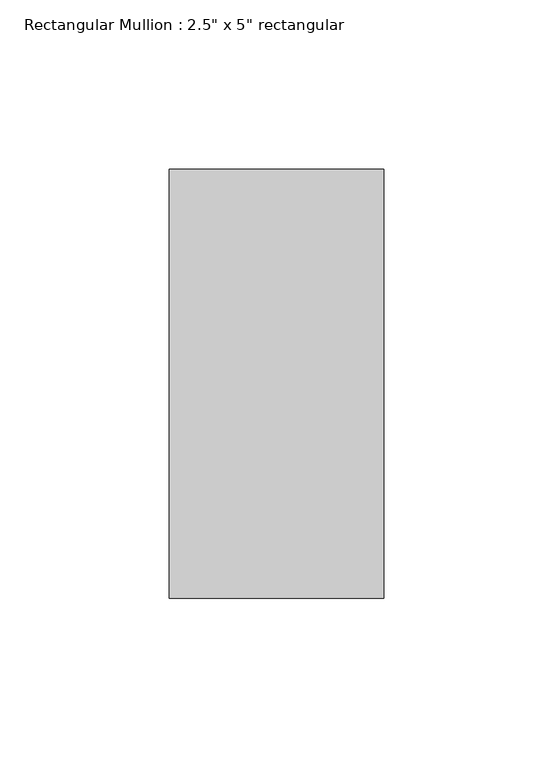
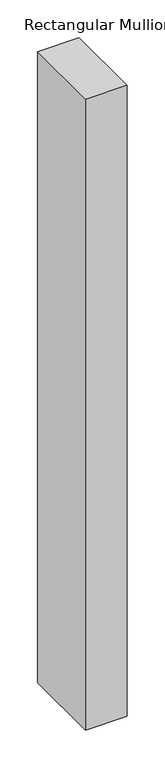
"""IFC4 building model written with IfcOpenShell, lengths in millimetres: member geometry."""

import ifcopenshell
import ifcopenshell.guid

model = None  # the IFC model being written
_history = None  # IfcOwnerHistory: only IFC2X3 demands one
_inside = {}  # id of a spatial element -> (the spatial element, [elements in it])
_under = {}  # id of a project, library or spatial element -> (it, [spatial elements below it])
_declared = {}  # id of a project -> (the project, [libraries it declares])
_typed = {}  # id of a type object -> (the type object, [elements of that type])
_made_of = {}  # id of a material, layer set ... -> (it, [elements and type objects made of it])


def new_model(schema):
    """Start an empty IFC model of exactly this schema.

    Asked for "IFC4X3", IfcOpenShell would pick the latest addendum, in which some entities
    have other attributes; the version numbers below select the first issue.
    IFC2X3 requires an IfcOwnerHistory on every rooted entity: one is made here for all.
    """
    global model, _history
    if schema == "IFC4X3":
        model = ifcopenshell.file(schema_version=(4, 3, 0, 0))
    else:
        model = ifcopenshell.file(schema=schema)
    _inside.clear()
    _under.clear()
    _declared.clear()
    _typed.clear()
    _made_of.clear()
    _history = None
    if model.schema == "IFC2X3":
        org = make("IfcOrganization", Name="unknown")
        user = make(
            "IfcPersonAndOrganization",
            ThePerson=make("IfcPerson", FamilyName="unknown"),
            TheOrganization=org,
        )
        app = make(
            "IfcApplication",
            ApplicationDeveloper=org,
            Version="unknown",
            ApplicationFullName="unknown",
            ApplicationIdentifier="unknown",
        )
        _history = make(
            "IfcOwnerHistory",
            OwningUser=user,
            OwningApplication=app,
            ChangeAction="ADDED",
            CreationDate=0,
        )
    return model


def make(cls, **values):
    """One entity of the class cls with the attributes given. An attribute that is None is left unset."""
    return model.create_entity(
        cls, **{name: value for name, value in values.items() if value is not None}
    )


def rooted(cls, **values):
    """An entity with a GlobalId (a new one), such as an element, a storey or a relation."""
    return make(cls, GlobalId=ifcopenshell.guid.new(), OwnerHistory=_history, **values)


def si_unit(unit_type, name, prefix=None):
    """IfcSIUnit, for example si_unit("LENGTHUNIT", "METRE", prefix="MILLI")."""
    return make("IfcSIUnit", UnitType=unit_type, Prefix=prefix, Name=name)


def assignment(units):
    """IfcUnitAssignment: the units of a project."""
    return None if units is None else make("IfcUnitAssignment", Units=units)


def point(xyz):
    """IfcCartesianPoint."""
    return None if xyz is None else make("IfcCartesianPoint", Coordinates=xyz)


def direction(xyz):
    """IfcDirection."""
    return None if xyz is None else make("IfcDirection", DirectionRatios=xyz)


def frame(location, z_axis=None, x_axis=None):
    """IfcAxis2Placement3D, a coordinate frame: its origin and axes. An axis left out is left unset."""
    return make(
        "IfcAxis2Placement3D",
        Location=point(location),
        Axis=direction(z_axis),
        RefDirection=direction(x_axis),
    )


def origin():
    """The frame at (0, 0, 0) with its axes left unset."""
    return frame((0.0, 0.0, 0.0))


def place(relative_to, where):
    """IfcLocalPlacement: puts the frame where relative to a parent placement (None: the world)."""
    return make(
        "IfcLocalPlacement", PlacementRelTo=relative_to, RelativePlacement=where
    )


def context(
    kind, dimensions, precision=None, world=None, true_north=None, identifier=None
):
    """IfcGeometricRepresentationContext, for example the 3D "Model" context."""
    return make(
        "IfcGeometricRepresentationContext",
        ContextIdentifier=identifier,
        ContextType=kind,
        CoordinateSpaceDimension=dimensions,
        Precision=precision,
        WorldCoordinateSystem=world,
        TrueNorth=true_north,
    )


def project(units=None, contexts=None):
    """IfcProject with its units and contexts."""
    return rooted(
        "IfcProject",
        Name="project",
        RepresentationContexts=contexts,
        UnitsInContext=assignment(units),
    )


def spatial(cls, under=None, at=None, **own):
    """A site, building, storey or space (cls), placed at a placement, below another one or the project."""
    s = rooted(cls, ObjectPlacement=at, **own)
    if under is not None:
        _under.setdefault(under.id(), (under, []))[1].append(s)
    return s


def polyline(points):
    """IfcPolyline through the points."""
    return make("IfcPolyline", Points=[point(p) for p in points])


def outline(outer, holes=None, kind="AREA"):
    """IfcArbitraryClosedProfileDef: a profile drawn as a closed curve; with holes, ...WithVoids."""
    if holes is None:
        return make("IfcArbitraryClosedProfileDef", ProfileType=kind, OuterCurve=outer)
    return make(
        "IfcArbitraryProfileDefWithVoids",
        ProfileType=kind,
        OuterCurve=outer,
        InnerCurves=holes,
    )


def extrude(swept, where, along, depth):
    """IfcExtrudedAreaSolid: the profile swept, set in the frame where, extruded along a direction by depth."""
    return make(
        "IfcExtrudedAreaSolid",
        SweptArea=swept,
        Position=where,
        ExtrudedDirection=direction(along),
        Depth=depth,
    )


def shape(context_of_items, identifier, shape_type, items):
    """IfcShapeRepresentation: the items that make up one representation, for example the "Body"."""
    return make(
        "IfcShapeRepresentation",
        ContextOfItems=context_of_items,
        RepresentationIdentifier=identifier,
        RepresentationType=shape_type,
        Items=items,
    )


def source(mapping_origin, context_of_items, identifier, shape_type, items):
    """IfcRepresentationMap: a shape defined once, which mapped items show again and again."""
    return make(
        "IfcRepresentationMap",
        MappingOrigin=mapping_origin,
        MappedRepresentation=shape(context_of_items, identifier, shape_type, items),
    )


def transform(
    local_origin,
    x_axis=None,
    y_axis=None,
    z_axis=None,
    scale=None,
    scale2=None,
    scale3=None,
    uniform=True,
):
    """IfcCartesianTransformationOperator3D, or its non-uniform kind. x_axis, y_axis, z_axis: its Axis1, 2, 3."""
    if uniform:
        return make(
            "IfcCartesianTransformationOperator3D",
            Axis1=direction(x_axis),
            Axis2=direction(y_axis),
            LocalOrigin=point(local_origin),
            Scale=scale,
            Axis3=direction(z_axis),
        )
    return make(
        "IfcCartesianTransformationOperator3DnonUniform",
        Axis1=direction(x_axis),
        Axis2=direction(y_axis),
        LocalOrigin=point(local_origin),
        Scale=scale,
        Axis3=direction(z_axis),
        Scale2=scale2,
        Scale3=scale3,
    )


def mapped(mapping_source, mapping_target):
    """IfcMappedItem: shows the shape of a source again, moved by a transform."""
    return make(
        "IfcMappedItem", MappingSource=mapping_source, MappingTarget=mapping_target
    )


def made_of(thing, what):
    """Note that an element or type object is made of a material, layer set ...; save() writes the relation."""
    if what is not None:
        _made_of.setdefault(what.id(), (what, []))[1].append(thing)
    return thing


def element(
    cls,
    number,
    at=None,
    inside=None,
    cuts=None,
    type_object=None,
    material=None,
    context=None,
    identifier="Body",
    shape_type=None,
    held_by="IfcProductDefinitionShape",
    body=None,
    shapes=None,
    **own,
):
    """One element of the class cls, such as IfcWall. Its Tag is "e" and its number.

    at: its placement. inside: the storey or other place that contains it. cuts: it is an
    opening in that element (IfcRelVoidsElement). A single representation is given by context,
    identifier, shape_type and body (its items); several are given by shapes. held_by: the class
    of the entity that holds the representations. save() writes the other relations.
    """
    e = rooted(cls, Tag="e%d" % number, ObjectPlacement=at, **own)
    if body is not None:
        shapes = [shape(context, identifier, shape_type, body)]
    if shapes is not None:
        e.Representation = make(held_by, Representations=shapes)
    if inside is not None:
        _inside.setdefault(inside.id(), (inside, []))[1].append(e)
    if cuts is not None:
        rooted(
            "IfcRelVoidsElement", RelatingBuildingElement=cuts, RelatedOpeningElement=e
        )
    if type_object is not None:
        _typed.setdefault(type_object.id(), (type_object, []))[1].append(e)
    return made_of(e, material)


def aggregate(whole, parts):
    """IfcRelAggregates: a whole, such as a stair, and the parts it consists of."""
    return rooted("IfcRelAggregates", RelatingObject=whole, RelatedObjects=parts)


def save(model, path):
    """Write the relations noted so far, then the file.

    IfcRelAggregates (storeys below a building ...), IfcRelContainedInSpatialStructure (elements
    in a storey), IfcRelDefinesByType, IfcRelAssociatesMaterial and IfcRelDeclares: one each for
    every whole, place, type object, material and project.
    """
    for whole, parts in _under.values():
        aggregate(whole, parts)
    for where, things in _inside.values():
        rooted(
            "IfcRelContainedInSpatialStructure",
            RelatedElements=things,
            RelatingStructure=where,
        )
    for kind, things in _typed.values():
        rooted("IfcRelDefinesByType", RelatedObjects=things, RelatingType=kind)
    for what, things in _made_of.values():
        rooted("IfcRelAssociatesMaterial", RelatedObjects=things, RelatingMaterial=what)
    for by, libraries in _declared.values():
        rooted("IfcRelDeclares", RelatingContext=by, RelatedDefinitions=libraries)
    model.write(path)


def member_628fcc78(model_context):
    return source(origin(), model_context, "Body", "SweptSolid", [
        extrude(outline(polyline([(0.0, 63.5), (0.0, -63.5), (-63.5, -63.5), (-63.5, 63.5), (0.0, 63.5)])), frame((0.0, 0.0, -1019.1750002), z_axis=(0.0, 0.0, 1.0), x_axis=(1.0, 0.0, 0.0)), (0.0, 0.0, 1.0), 1019.1750002),
    ])


if __name__ == "__main__":
    model = new_model("IFC4")
    model_context = context("Model", 3, world=origin())
    ifc_project = project(units=[si_unit("LENGTHUNIT", "METRE", prefix="MILLI")], contexts=[model_context])
    site = spatial("IfcSite", under=ifc_project)
    building = spatial("IfcBuilding", under=site)
    placement = place(None, origin())
    member_shape = member_628fcc78(model_context)
    element("IfcMember", 1, ObjectType="Rectangular Mullion : 2.5\" x 5\" rectangular", at=placement, inside=building, context=model_context, shape_type="MappedRepresentation", body=[
        mapped(member_shape, transform((0.0, 0.0, 0.0), x_axis=(1.0, 0.0, 0.0), y_axis=(0.0, 1.0, 0.0), z_axis=(0.0, 0.0, 1.0))),
    ])
    save(model, "model.ifc")
